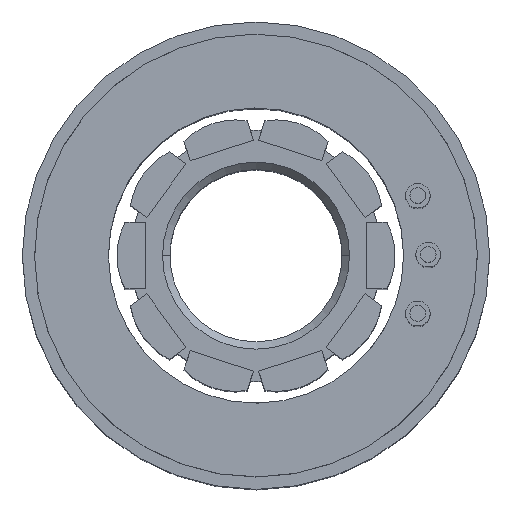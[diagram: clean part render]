
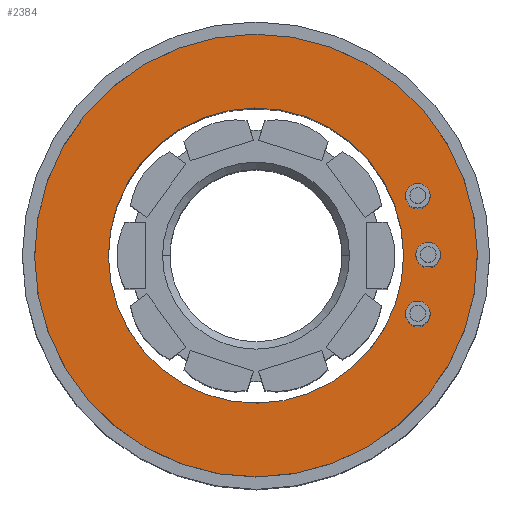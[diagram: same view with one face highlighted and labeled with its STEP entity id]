
A CAD part, top view. The second image highlights one B-rep face of the part: STEP entity #2384.
In plain terms, the highlighted planar face has unit normal (0, 0, 1).
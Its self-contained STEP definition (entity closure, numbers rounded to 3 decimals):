
#19 = VERTEX_POINT ( 'NONE', #5962 ) ;
#406 = DIRECTION ( 'NONE',  ( 1., 0., 0. ) ) ;
#493 = FACE_BOUND ( 'NONE', #6105, .T. ) ;
#547 = CARTESIAN_POINT ( 'NONE',  ( 0., 0., 19.8 ) ) ;
#652 = VERTEX_POINT ( 'NONE', #5619 ) ;
#1179 = CARTESIAN_POINT ( 'NONE',  ( -9., 0., 19.8 ) ) ;
#1327 = CARTESIAN_POINT ( 'NONE',  ( 9., 0., 19.8 ) ) ;
#1583 = VERTEX_POINT ( 'NONE', #1327 ) ;
#1811 = DIRECTION ( 'NONE',  ( 1., 0., 0. ) ) ;
#1908 = EDGE_CURVE ( 'NONE', #19, #652, #3510, .T. ) ;
#1941 = EDGE_CURVE ( 'NONE', #1583, #6044, #2879, .T. ) ;
#2084 = AXIS2_PLACEMENT_3D ( 'NONE', #3015, #7793, #1811 ) ;
#2191 = DIRECTION ( 'NONE',  ( 0., 0., 1. ) ) ;
#2328 = DIRECTION ( 'NONE',  ( 0., 0., 1. ) ) ;
#2384 = ADVANCED_FACE ( 'NONE', ( #6036, #493 ), #3536, .T. ) ;
#2461 = DIRECTION ( 'NONE',  ( 1., 0., 0. ) ) ;
#2761 = CARTESIAN_POINT ( 'NONE',  ( 0., 0., 19.8 ) ) ;
#2879 = CIRCLE ( 'NONE', #2084, 9. ) ;
#2889 = DIRECTION ( 'NONE',  ( 0., 0., 1. ) ) ;
#2900 = DIRECTION ( 'NONE',  ( 1., 0., 0. ) ) ;
#3015 = CARTESIAN_POINT ( 'NONE',  ( 0., 0., 19.8 ) ) ;
#3186 = AXIS2_PLACEMENT_3D ( 'NONE', #7210, #2328, #7869 ) ;
#3213 = ORIENTED_EDGE ( 'NONE', *, *, #1908, .F. ) ;
#3510 = CIRCLE ( 'NONE', #6319, 6. ) ;
#3536 = PLANE ( 'NONE',  #4350 ) ;
#3979 = ORIENTED_EDGE ( 'NONE', *, *, #7084, .T. ) ;
#4200 = CIRCLE ( 'NONE', #3186, 9. ) ;
#4256 = EDGE_CURVE ( 'NONE', #652, #19, #5274, .T. ) ;
#4350 = AXIS2_PLACEMENT_3D ( 'NONE', #7862, #2889, #406 ) ;
#5274 = CIRCLE ( 'NONE', #6298, 6. ) ;
#5619 = CARTESIAN_POINT ( 'NONE',  ( -6., 0., 19.8 ) ) ;
#5962 = CARTESIAN_POINT ( 'NONE',  ( 6., 0., 19.8 ) ) ;
#6036 = FACE_OUTER_BOUND ( 'NONE', #6548, .T. ) ;
#6044 = VERTEX_POINT ( 'NONE', #1179 ) ;
#6105 = EDGE_LOOP ( 'NONE', ( #6963, #3213 ) ) ;
#6298 = AXIS2_PLACEMENT_3D ( 'NONE', #2761, #2191, #2461 ) ;
#6319 = AXIS2_PLACEMENT_3D ( 'NONE', #547, #6522, #2900 ) ;
#6522 = DIRECTION ( 'NONE',  ( 0., 0., 1. ) ) ;
#6548 = EDGE_LOOP ( 'NONE', ( #3979, #7563 ) ) ;
#6963 = ORIENTED_EDGE ( 'NONE', *, *, #4256, .F. ) ;
#7084 = EDGE_CURVE ( 'NONE', #6044, #1583, #4200, .T. ) ;
#7210 = CARTESIAN_POINT ( 'NONE',  ( 0., 0., 19.8 ) ) ;
#7563 = ORIENTED_EDGE ( 'NONE', *, *, #1941, .T. ) ;
#7793 = DIRECTION ( 'NONE',  ( 0., 0., 1. ) ) ;
#7862 = CARTESIAN_POINT ( 'NONE',  ( 0., 0., 19.8 ) ) ;
#7869 = DIRECTION ( 'NONE',  ( 1., 0., 0. ) ) ;
